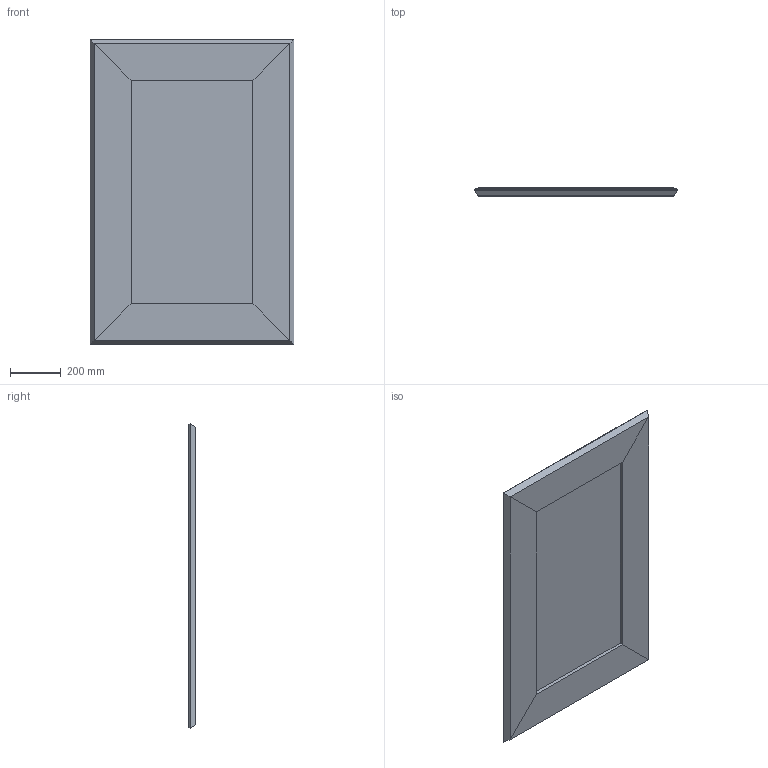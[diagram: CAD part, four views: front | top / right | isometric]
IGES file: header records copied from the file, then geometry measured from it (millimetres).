
Start section: SolidWorks IGES file using analytic representation for surfaces
Global section: file name: Y:\eforma\TECNICO\SOLIDWORKS\E-FORMA\4-SPECCHI\PRISMA\02 parts\PRI03_Prisma_120x80.IGS; native system: SolidWorks 2022; preprocessor: SolidWorks 2022; author: eforma.tech; date: 240806.094636; units: millimetre
Bounding box: 800 x 30 x 1200 mm (x, y, z)
Volume: 19074702.8 mm3; surface area: 2331253.6 mm2
Topology: 5 solids, 5 shells, 166 faces, 424 edges, 272 vertices
Faces by surface type: plane 98, revolution 68
